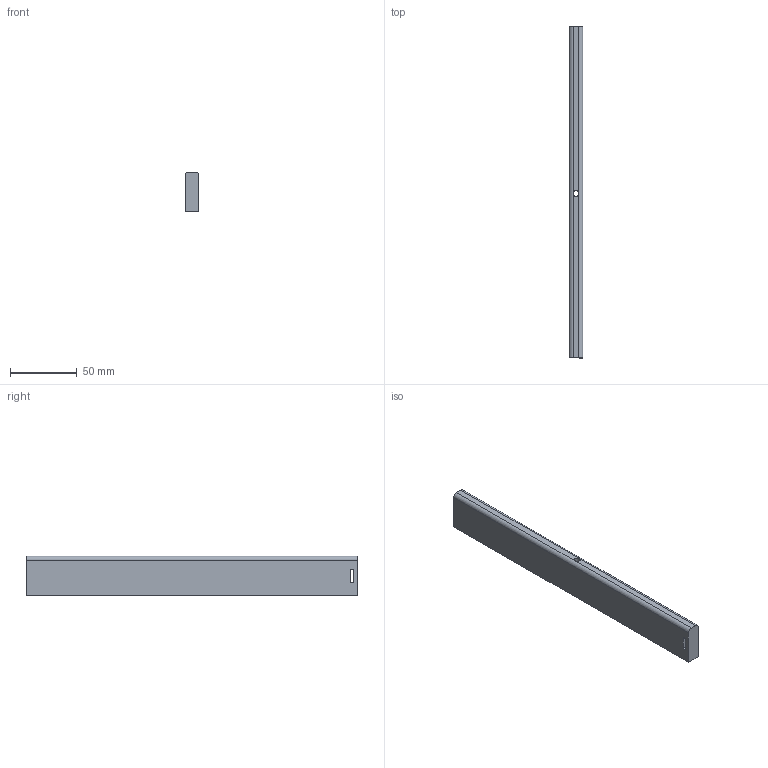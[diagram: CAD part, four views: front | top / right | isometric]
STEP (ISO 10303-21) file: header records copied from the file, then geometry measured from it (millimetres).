
FILE_DESCRIPTION (( 'STEP AP214' ), '1' );
FILE_NAME ('_Seitenreling_S760609500_RL249,5.step', '2010-09-06T14:51:31', ( 'grass' ), ( '' ), 'SwSTEP 2.0', 'SolidWorks 2010', '' );
FILE_SCHEMA (( 'AUTOMOTIVE_DESIGN' ));
Length unit declared in the file: millimetre
Products named in the file (1): _Seitenreling_S760609500_RL249,5
Bounding box: 10.5 x 249.5 x 30 mm (x, y, z)
Volume: 76242.7 mm3; surface area: 21042.5 mm2
Topology: 1 solids, 1 shells, 23 faces, 56 edges, 36 vertices
Faces by surface type: plane 15, cylinder 8
Entity records: 716 total; most frequent: DIRECTION 120, CARTESIAN_POINT 116, ORIENTED_EDGE 112, EDGE_CURVE 56, AXIS2_PLACEMENT_3D 40, LINE 40, VECTOR 40, VERTEX_POINT 36
